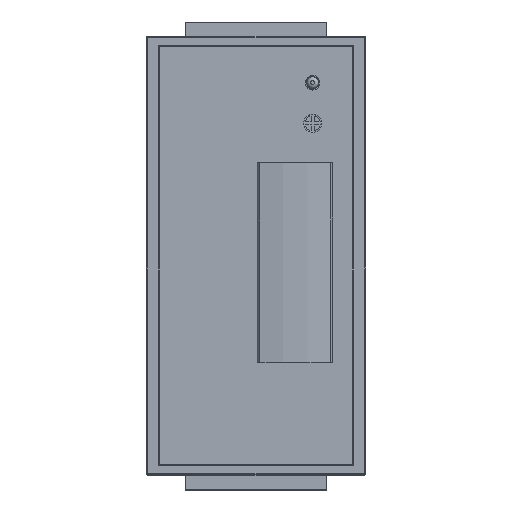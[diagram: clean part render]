
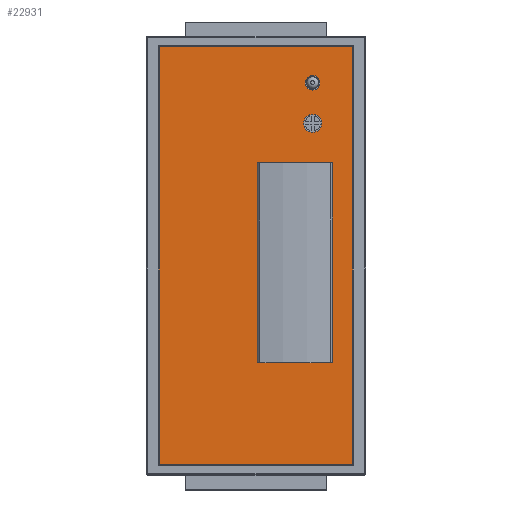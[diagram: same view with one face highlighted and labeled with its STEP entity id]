
A CAD part, top view. The second image highlights one B-rep face of the part: STEP entity #22931.
In plain terms, the highlighted planar face has unit normal (0, 0, 1).
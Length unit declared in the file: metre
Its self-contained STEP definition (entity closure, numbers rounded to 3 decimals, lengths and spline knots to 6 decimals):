
#820=CIRCLE('',#25500,0.001836);
#821=CIRCLE('',#25501,0.0015);
#2282=ORIENTED_EDGE('',*,*,#8864,.F.);
#2283=ORIENTED_EDGE('',*,*,#8643,.T.);
#2284=ORIENTED_EDGE('',*,*,#8491,.T.);
#2285=ORIENTED_EDGE('',*,*,#8513,.T.);
#2286=ORIENTED_EDGE('',*,*,#8534,.T.);
#2287=ORIENTED_EDGE('',*,*,#8865,.T.);
#2288=ORIENTED_EDGE('',*,*,#8866,.T.);
#2289=ORIENTED_EDGE('',*,*,#8867,.T.);
#2290=ORIENTED_EDGE('',*,*,#8868,.T.);
#2291=ORIENTED_EDGE('',*,*,#8869,.F.);
#8491=EDGE_CURVE('',#11861,#11860,#13941,.T.);
#8513=EDGE_CURVE('',#11860,#11881,#13963,.T.);
#8534=EDGE_CURVE('',#11881,#11901,#13984,.T.);
#8643=EDGE_CURVE('',#11901,#11861,#14043,.T.);
#8864=EDGE_CURVE('',#12169,#12169,#820,.T.);
#8865=EDGE_CURVE('',#12170,#12171,#14185,.T.);
#8866=EDGE_CURVE('',#12171,#12172,#14186,.T.);
#8867=EDGE_CURVE('',#12172,#12173,#14187,.T.);
#8868=EDGE_CURVE('',#12173,#12170,#14188,.T.);
#8869=EDGE_CURVE('',#12174,#12174,#821,.F.);
#11860=VERTEX_POINT('',#34622);
#11861=VERTEX_POINT('',#34624);
#11881=VERTEX_POINT('',#34666);
#11901=VERTEX_POINT('',#34708);
#12169=VERTEX_POINT('',#35400);
#12170=VERTEX_POINT('',#35402);
#12171=VERTEX_POINT('',#35403);
#12172=VERTEX_POINT('',#35405);
#12173=VERTEX_POINT('',#35407);
#12174=VERTEX_POINT('',#35410);
#13941=LINE('',#34623,#16455);
#13963=LINE('',#34667,#16477);
#13984=LINE('',#34709,#16498);
#14043=LINE('',#34922,#16557);
#14185=LINE('',#35401,#16699);
#14186=LINE('',#35404,#16700);
#14187=LINE('',#35406,#16701);
#14188=LINE('',#35408,#16702);
#16455=VECTOR('',#27578,1.);
#16477=VECTOR('',#27602,1.);
#16498=VECTOR('',#27625,1.);
#16557=VECTOR('',#27872,1.);
#16699=VECTOR('',#28272,1.);
#16700=VECTOR('',#28273,1.);
#16701=VECTOR('',#28274,1.);
#16702=VECTOR('',#28275,1.);
#19063=EDGE_LOOP('',(#2282));
#19064=EDGE_LOOP('',(#2283,#2284,#2285,#2286));
#19065=EDGE_LOOP('',(#2287,#2288,#2289,#2290));
#19066=EDGE_LOOP('',(#2291));
#20603=FACE_BOUND('',#19063,.T.);
#20604=FACE_BOUND('',#19064,.T.);
#20605=FACE_BOUND('',#19065,.T.);
#20606=FACE_BOUND('',#19066,.T.);
#22074=PLANE('',#25499);
#22931=ADVANCED_FACE('',(#20603,#20604,#20605,#20606),#22074,.F.);
#25499=AXIS2_PLACEMENT_3D('',#35398,#28268,#28269);
#25500=AXIS2_PLACEMENT_3D('',#35399,#28270,#28271);
#25501=AXIS2_PLACEMENT_3D('',#35409,#28276,#28277);
#27578=DIRECTION('',(0.,-1.,0.));
#27602=DIRECTION('',(-1.,0.,0.));
#27625=DIRECTION('',(0.,1.,0.));
#27872=DIRECTION('',(1.,0.,0.));
#28268=DIRECTION('',(0.,0.,-1.));
#28269=DIRECTION('',(-1.,0.,0.));
#28270=DIRECTION('',(0.,0.,1.));
#28271=DIRECTION('',(1.,0.,0.));
#28272=DIRECTION('',(-1.,0.,0.));
#28273=DIRECTION('',(0.,-1.,0.));
#28274=DIRECTION('',(1.,0.,0.));
#28275=DIRECTION('',(0.,1.,0.));
#28276=DIRECTION('',(0.,0.,-1.));
#28277=DIRECTION('',(-1.,0.,0.));
#34622=CARTESIAN_POINT('',(0.015,-0.022,0.0602));
#34623=CARTESIAN_POINT('',(0.015,0.019,0.0602));
#34624=CARTESIAN_POINT('',(0.015,0.019,0.0602));
#34666=CARTESIAN_POINT('',(0.001,-0.022,0.0602));
#34667=CARTESIAN_POINT('',(0.001,-0.022,0.0602));
#34708=CARTESIAN_POINT('',(0.001,0.019,0.0602));
#34709=CARTESIAN_POINT('',(0.001,0.019,0.0602));
#34922=CARTESIAN_POINT('',(0.001,0.019,0.0602));
#35398=CARTESIAN_POINT('',(0.,0.,0.0602));
#35399=CARTESIAN_POINT('',(0.011623,0.027092,0.0602));
#35400=CARTESIAN_POINT('',(0.013459,0.027092,0.0602));
#35401=CARTESIAN_POINT('',(-0.019854,0.042854,0.0602));
#35402=CARTESIAN_POINT('',(0.019854,0.042854,0.0602));
#35403=CARTESIAN_POINT('',(-0.019854,0.042854,0.0602));
#35404=CARTESIAN_POINT('',(-0.019854,0.042854,0.0602));
#35405=CARTESIAN_POINT('',(-0.019854,-0.042854,0.0602));
#35406=CARTESIAN_POINT('',(-0.019854,-0.042854,0.0602));
#35407=CARTESIAN_POINT('',(0.019854,-0.042854,0.0602));
#35408=CARTESIAN_POINT('',(0.019854,0.042854,0.0602));
#35409=CARTESIAN_POINT('',(0.011623,0.035433,0.0602));
#35410=CARTESIAN_POINT('',(0.010123,0.035433,0.0602));
